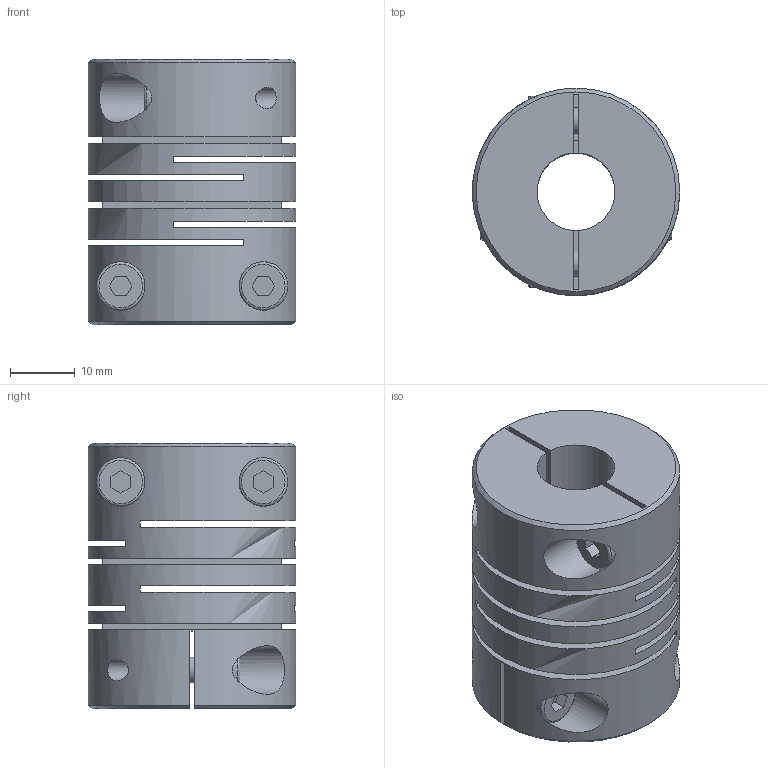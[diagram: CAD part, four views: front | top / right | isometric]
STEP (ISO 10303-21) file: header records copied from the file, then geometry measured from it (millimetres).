
FILE_DESCRIPTION (( 'STEP AP214' ), '1' );
FILE_NAME ('2246-32-B12-12-NI.step', '2022-05-27T09:31:08', ( '' ), ( '' ), 'SwSTEP 2.0', 'SolidWorks 2019', '' );
FILE_SCHEMA (( 'AUTOMOTIVE_DESIGN' ));
Length unit declared in the file: millimetre
Products named in the file (1): 2246-32-B12-12-NI
Bounding box: 32 x 32 x 41 mm (x, y, z)
Volume: 23881.3 mm3; surface area: 14551.5 mm2
Topology: 1 solids, 1 shells, 114 faces, 289 edges, 193 vertices
Faces by surface type: plane 74, cylinder 29, cone 7, torus 4
Full cylindrical faces by diameter (mm): 3.3 x4, 4 x4, 4.5 x4, 12 x6, 32 x1
Entity records: 4166 total; most frequent: CARTESIAN_POINT 1003, DIRECTION 516, ORIENTED_EDGE 454, EDGE_CURVE 227, AXIS2_PLACEMENT_3D 190, EDGE_LOOP 184, VERTEX_POINT 163, FACE_OUTER_BOUND 137
